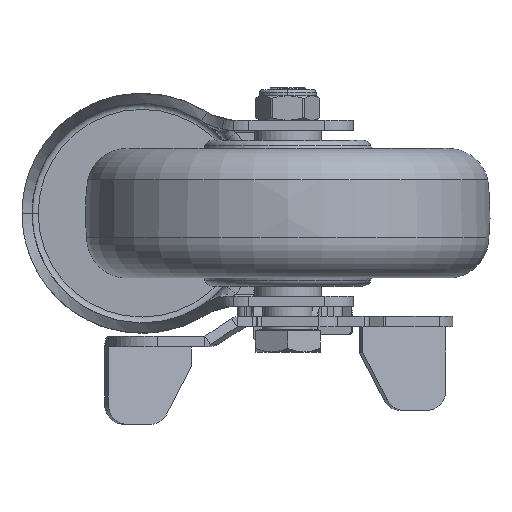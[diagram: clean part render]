
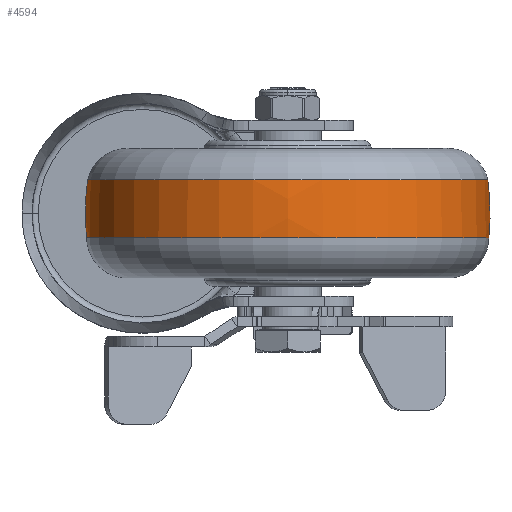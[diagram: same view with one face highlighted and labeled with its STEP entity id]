
A CAD part, front view. The second image highlights one B-rep face of the part: STEP entity #4594.
In plain terms, the highlighted free-form (B-spline) face has degree [3, 3] with [7, 4] control points.
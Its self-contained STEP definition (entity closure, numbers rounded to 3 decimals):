
#3979=CARTESIAN_POINT('',(-6.012,0.,0.));
#3980=DIRECTION('',(-1.,0.,0.));
#3981=DIRECTION('',(0.,1.,0.));
#3982=AXIS2_PLACEMENT_3D('',#3979,#3980,#3981);
#3994=CARTESIAN_POINT('',(0.,-11.437,0.));
#3995=DIRECTION('',(0.,0.,1.));
#3996=DIRECTION('',(0.135,0.991,0.));
#3997=AXIS2_PLACEMENT_3D('',#3994,#3995,#3996);
#3999=CARTESIAN_POINT('',(0.,11.437,0.));
#4000=DIRECTION('',(0.,0.,-1.));
#4001=DIRECTION('',(0.135,-0.991,0.));
#4002=AXIS2_PLACEMENT_3D('',#3999,#4000,#4001);
#4004=CARTESIAN_POINT('',(8.303,0.,0.));
#4005=DIRECTION('',(-1.,0.,0.));
#4006=DIRECTION('',(0.,1.,0.));
#4007=AXIS2_PLACEMENT_3D('',#4004,#4005,#4006);
#4219=CARTESIAN_POINT('',(-6.012,49.697,0.));
#4221=VERTEX_POINT('',#4219);
#4223=CARTESIAN_POINT('',(-6.012,-49.697,
0.));
#4225=VERTEX_POINT('',#4223);
#4252=CARTESIAN_POINT('',(8.303,49.428,0.));
#4254=VERTEX_POINT('',#4252);
#4256=CARTESIAN_POINT('',(8.303,-49.428,
0.));
#4258=VERTEX_POINT('',#4256);
#4558=CARTESIAN_POINT('',(-6.298,-49.57,
3.119));
#4559=CARTESIAN_POINT('',(-1.337,-50.08,
3.151));
#4560=CARTESIAN_POINT('',(3.649,-49.987,3.145));
#4561=CARTESIAN_POINT('',(8.587,-49.291,3.101));
#4562=CARTESIAN_POINT('',(-6.298,-51.489,
-27.387));
#4563=CARTESIAN_POINT('',(-1.337,-52.019,
-27.668));
#4564=CARTESIAN_POINT('',(3.649,-51.922,
-27.617));
#4565=CARTESIAN_POINT('',(8.587,-51.199,
-27.232));
#4566=CARTESIAN_POINT('',(-6.298,-30.566,
-49.668));
#4567=CARTESIAN_POINT('',(-1.337,-30.88,
-50.179));
#4568=CARTESIAN_POINT('',(3.649,-30.823,
-50.085));
#4569=CARTESIAN_POINT('',(8.587,-30.393,
-49.388));
#4570=CARTESIAN_POINT('',(-6.298,0.,-49.668));
#4571=CARTESIAN_POINT('',(-1.337,0.,-50.179));
#4572=CARTESIAN_POINT('',(3.649,0.,
-50.085));
#4573=CARTESIAN_POINT('',(8.587,0.,-49.388));
#4574=CARTESIAN_POINT('',(-6.298,30.566,
-49.668));
#4575=CARTESIAN_POINT('',(-1.337,30.88,
-50.179));
#4576=CARTESIAN_POINT('',(3.649,30.823,-50.085));
#4577=CARTESIAN_POINT('',(8.587,30.393,-49.388));
#4578=CARTESIAN_POINT('',(-6.298,51.489,
-27.387));
#4579=CARTESIAN_POINT('',(-1.337,52.019,
-27.668));
#4580=CARTESIAN_POINT('',(3.649,51.922,-27.617));
#4581=CARTESIAN_POINT('',(8.587,51.199,-27.232));
#4582=CARTESIAN_POINT('',(-6.298,49.57,3.119));
#4583=CARTESIAN_POINT('',(-1.337,50.08,3.151));
#4584=CARTESIAN_POINT('',(3.649,49.987,3.145));
#4585=CARTESIAN_POINT('',(8.587,49.291,3.101));
#4586=(BOUNDED_SURFACE()B_SPLINE_SURFACE(3,3,((#4558,#4559,#4560,#4561),(#4562,
#4563,#4564,#4565),(#4566,#4567,#4568,#4569),(#4570,#4571,#4572,#4573),(#4574,
#4575,#4576,#4577),(#4578,#4579,#4580,#4581),(#4582,#4583,#4584,#4585)),
.UNSPECIFIED.,.F.,.F.,.F.)B_SPLINE_SURFACE_WITH_KNOTS((4,3,4),(4,4),(0.,1.,
2.),(0.,1.),.UNSPECIFIED.)GEOMETRIC_REPRESENTATION_ITEM()RATIONAL_B_SPLINE_SURFACE(((1.192,1.186,1.186,1.192),(
0.941,0.936,0.936,0.941),(
0.941,0.936,0.936,0.941),(
1.192,1.186,1.186,1.192),(
0.941,0.936,0.936,0.941),(
0.941,0.936,0.936,0.941),(
1.192,1.186,1.186,1.192)))REPRESENTATION_ITEM('')SURFACE());
#4587=ORIENTED_EDGE('',*,*,#4548,.T.);
#4588=ORIENTED_EDGE('',*,*,#4501,.T.);
#4589=ORIENTED_EDGE('',*,*,#4552,.F.);
#4591=ORIENTED_EDGE('',*,*,#4590,.F.);
#4592=EDGE_LOOP('',(#4587,#4588,#4589,#4591));
#4593=FACE_OUTER_BOUND('',#4592,.F.);
#3983=CIRCLE('',#3982,49.697);
#3998=CIRCLE('',#3997,61.429);
#4003=CIRCLE('',#4002,61.429);
#4008=CIRCLE('',#4007,49.428);
#4501=EDGE_CURVE('',#4221,#4225,#3983,.T.);
#4548=EDGE_CURVE('',#4254,#4221,#3998,.T.);
#4552=EDGE_CURVE('',#4258,#4225,#4003,.T.);
#4590=EDGE_CURVE('',#4254,#4258,#4008,.T.);
#4594=ADVANCED_FACE('',(#4593),#4586,.T.);
